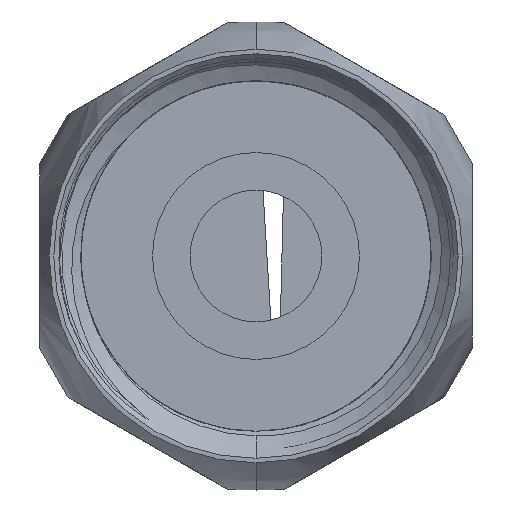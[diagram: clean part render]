
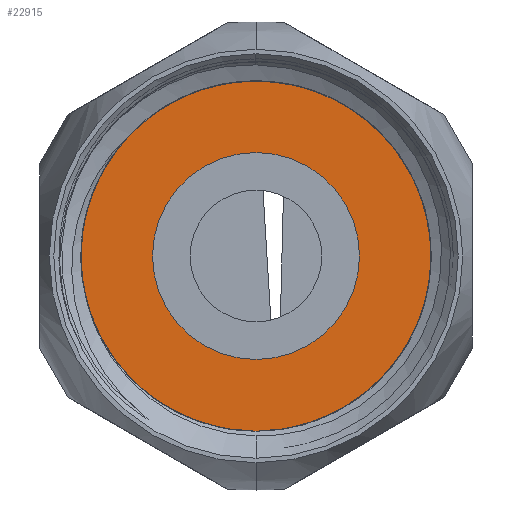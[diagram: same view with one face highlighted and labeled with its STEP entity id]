
A CAD part, front view. The second image highlights one B-rep face of the part: STEP entity #22915.
In plain terms, the highlighted planar face has unit normal (0, -1, 0) as drawn and (0, 1, 0) by its records, which use the part's own axes.
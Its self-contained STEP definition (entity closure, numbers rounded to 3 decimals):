
#22790=CARTESIAN_POINT('',(0.,3.,0.));
#22791=DIRECTION('',(0.,1.,0.));
#22792=DIRECTION('',(0.,0.,1.));
#22793=AXIS2_PLACEMENT_3D('',#22790,#22791,#22792);
#22798=CARTESIAN_POINT('',(0.,3.,0.));
#22799=DIRECTION('',(0.,-1.,0.));
#22800=DIRECTION('',(0.,0.,1.));
#22801=AXIS2_PLACEMENT_3D('',#22798,#22799,#22800);
#22806=CARTESIAN_POINT('',(0.,3.,0.));
#22807=DIRECTION('',(0.,-1.,0.));
#22808=DIRECTION('',(0.,0.,1.));
#22809=AXIS2_PLACEMENT_3D('',#22806,#22807,#22808);
#22828=CARTESIAN_POINT('',(0.,3.,0.));
#22829=DIRECTION('',(0.,1.,0.));
#22830=DIRECTION('',(0.,0.,1.));
#22831=AXIS2_PLACEMENT_3D('',#22828,#22829,#22830);
#22882=CARTESIAN_POINT('',(0.,3.,5.5));
#22884=VERTEX_POINT('',#22882);
#22887=CARTESIAN_POINT('',(0.,3.,9.5));
#22889=VERTEX_POINT('',#22887);
#22890=CARTESIAN_POINT('',(0.,3.,-5.5));
#22892=VERTEX_POINT('',#22890);
#22895=CARTESIAN_POINT('',(0.,3.,-9.5));
#22897=VERTEX_POINT('',#22895);
#22898=CARTESIAN_POINT('',(0.,3.,0.));
#22899=DIRECTION('',(0.,-1.,0.));
#22900=DIRECTION('',(0.,0.,-1.));
#22901=AXIS2_PLACEMENT_3D('',#22898,#22899,#22900);
#22902=PLANE('',#22901);
#22904=ORIENTED_EDGE('',*,*,#22903,.F.);
#22906=ORIENTED_EDGE('',*,*,#22905,.T.);
#22907=EDGE_LOOP('',(#22904,#22906));
#22908=FACE_OUTER_BOUND('',#22907,.F.);
#22910=ORIENTED_EDGE('',*,*,#22909,.F.);
#22912=ORIENTED_EDGE('',*,*,#22911,.T.);
#22913=EDGE_LOOP('',(#22910,#22912));
#22914=FACE_BOUND('',#22913,.F.);
#22915=ADVANCED_FACE('',(#22908,#22914),#22902,.F.);
#22794=CIRCLE('',#22793,9.5);
#22802=CIRCLE('',#22801,9.5);
#22810=CIRCLE('',#22809,5.5);
#22832=CIRCLE('',#22831,5.5);
#22903=EDGE_CURVE('',#22889,#22897,#22794,.T.);
#22905=EDGE_CURVE('',#22889,#22897,#22802,.T.);
#22909=EDGE_CURVE('',#22884,#22892,#22810,.T.);
#22911=EDGE_CURVE('',#22884,#22892,#22832,.T.);
